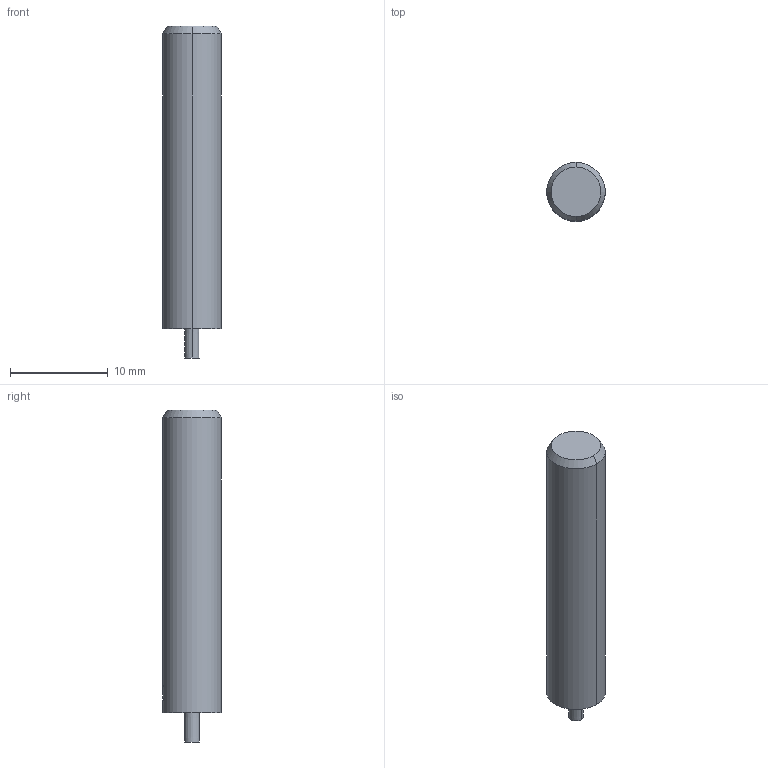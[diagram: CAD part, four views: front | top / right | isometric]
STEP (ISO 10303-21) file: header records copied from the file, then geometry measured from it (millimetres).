
FILE_DESCRIPTION(('no description'),'unknown implementation level');
FILE_NAME('solidM2IRe8KmHFN6rSBC5o71_lCGwrg_1.STP',' ',('CIMSOURCE GmbH'),('CADClick - KiM GmbH - www.kimweb.de'),'unknown preprocess','ACIS','unknown authorization');
FILE_SCHEMA(('automotive_design'));
Length unit declared in the file: millimetre
Products named in the file (2): NOCUT; CUT
Bounding box: 6 x 6 x 34 mm (x, y, z)
Volume: 878.3 mm3; surface area: 652.6 mm2
Topology: 2 solids, 2 shells, 23 faces, 55 edges, 36 vertices
Faces by surface type: cylinder 10, plane 9, cone 4
Entity records: 1560 total; most frequent: CARTESIAN_POINT 336, STYLED_ITEM 116, PRESENTATION_STYLE_ASSIGNMENT 116, COLOUR_RGB 116, DIRECTION 115, ORIENTED_EDGE 110, EDGE_CURVE 55, CURVE_STYLE 55
